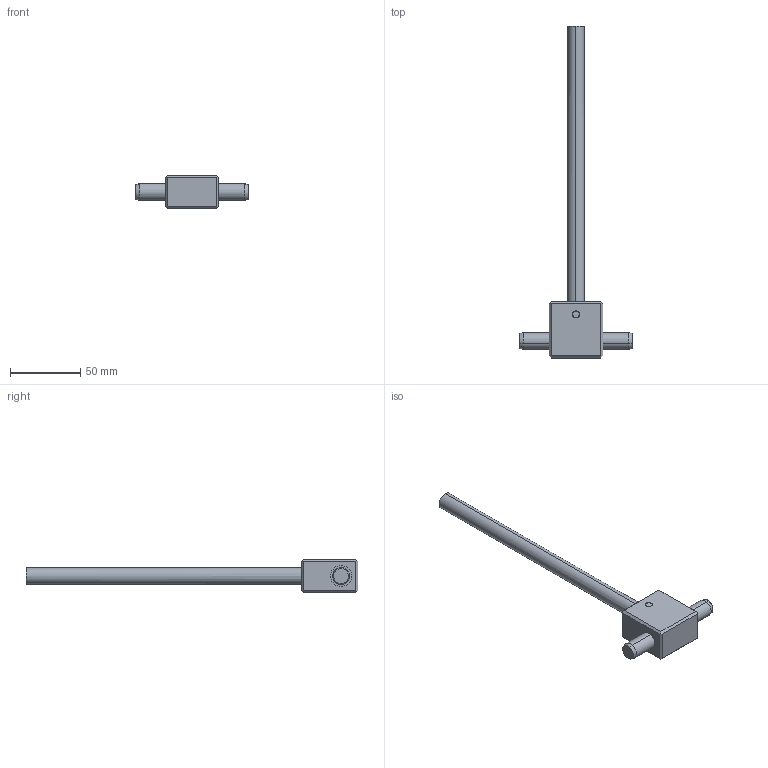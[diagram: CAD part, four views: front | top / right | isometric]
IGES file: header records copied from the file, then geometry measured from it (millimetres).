
Start section: START RECORD GO HERE.
Global section: file name: sd3824gr.igs; native system: DASSAULT SYSTEMES CATIA V5 R20 - www.3ds.com; preprocessor: CATIA Version 5 Release 20 ; author: Utente; organization: NB04-ASUS; date: 20201107.132427; units: millimetre
Bounding box: 80 x 236 x 24 mm (x, y, z)
Surface area: 25125.3 mm2 (no closed solid volume)
Topology: 0 solids, 0 shells, 161 faces, 708 edges, 708 vertices
Faces by surface type: revolution 122, plane 39
